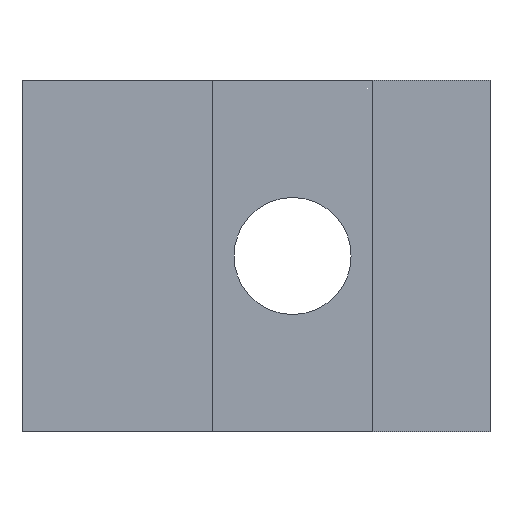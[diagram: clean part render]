
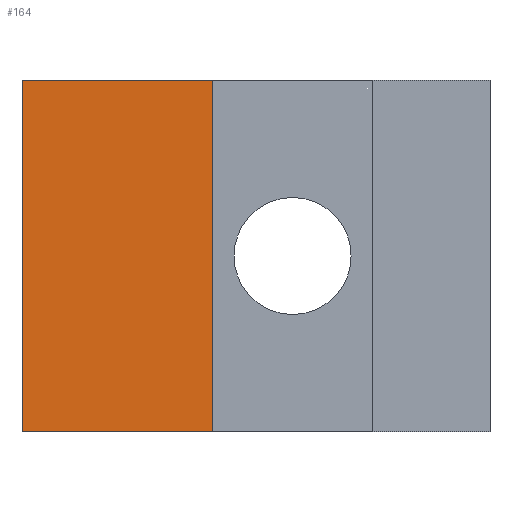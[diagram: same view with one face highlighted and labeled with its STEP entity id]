
A CAD part, front view. The second image highlights one B-rep face of the part: STEP entity #164.
In plain terms, the highlighted planar face has unit normal (0, -1, 0).
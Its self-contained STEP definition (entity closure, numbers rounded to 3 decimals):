
#46 = CARTESIAN_POINT ( 'NONE',  ( 0., 0., -24. ) ) ;
#98 = VECTOR ( 'NONE', #245, 1000. ) ;
#102 = ORIENTED_EDGE ( 'NONE', *, *, #150, .F. ) ;
#139 = ORIENTED_EDGE ( 'NONE', *, *, #476, .F. ) ;
#150 = EDGE_CURVE ( 'NONE', #392, #244, #406, .T. ) ;
#152 = CARTESIAN_POINT ( 'NONE',  ( 13., 0., -24. ) ) ;
#164 = ADVANCED_FACE ( 'NONE', ( #302 ), #510, .T. ) ;
#171 = DIRECTION ( 'NONE',  ( 0., 0., 1. ) ) ;
#178 = VECTOR ( 'NONE', #187, 1000. ) ;
#186 = CARTESIAN_POINT ( 'NONE',  ( 13., 0., -24. ) ) ;
#187 = DIRECTION ( 'NONE',  ( 0., 0., 1. ) ) ;
#206 = ORIENTED_EDGE ( 'NONE', *, *, #320, .T. ) ;
#219 = LINE ( 'NONE', #272, #178 ) ;
#222 = CARTESIAN_POINT ( 'NONE',  ( 0., 0., 0. ) ) ;
#231 = DIRECTION ( 'NONE',  ( 0., -1., 0. ) ) ;
#232 = DIRECTION ( 'NONE',  ( 1., 0., 0. ) ) ;
#235 = CARTESIAN_POINT ( 'NONE',  ( 0., 0., -24. ) ) ;
#244 = VERTEX_POINT ( 'NONE', #222 ) ;
#245 = DIRECTION ( 'NONE',  ( 1., 0., 0. ) ) ;
#263 = DIRECTION ( 'NONE',  ( 1., 0., 0. ) ) ;
#272 = CARTESIAN_POINT ( 'NONE',  ( 13., 0., -24. ) ) ;
#276 = LINE ( 'NONE', #528, #495 ) ;
#302 = FACE_OUTER_BOUND ( 'NONE', #416, .T. ) ;
#306 = VERTEX_POINT ( 'NONE', #152 ) ;
#320 = EDGE_CURVE ( 'NONE', #392, #306, #276, .T. ) ;
#367 = AXIS2_PLACEMENT_3D ( 'NONE', #186, #231, #263 ) ;
#370 = ORIENTED_EDGE ( 'NONE', *, *, #537, .T. ) ;
#382 = CARTESIAN_POINT ( 'NONE',  ( 13., 0., 0. ) ) ;
#392 = VERTEX_POINT ( 'NONE', #235 ) ;
#406 = LINE ( 'NONE', #46, #521 ) ;
#416 = EDGE_LOOP ( 'NONE', ( #139, #102, #206, #370 ) ) ;
#432 = LINE ( 'NONE', #529, #98 ) ;
#476 = EDGE_CURVE ( 'NONE', #244, #500, #432, .T. ) ;
#495 = VECTOR ( 'NONE', #232, 1000. ) ;
#500 = VERTEX_POINT ( 'NONE', #382 ) ;
#510 = PLANE ( 'NONE',  #367 ) ;
#521 = VECTOR ( 'NONE', #171, 1000. ) ;
#528 = CARTESIAN_POINT ( 'NONE',  ( 13., 0., -24. ) ) ;
#529 = CARTESIAN_POINT ( 'NONE',  ( 13., 0., 0. ) ) ;
#537 = EDGE_CURVE ( 'NONE', #306, #500, #219, .T. ) ;
